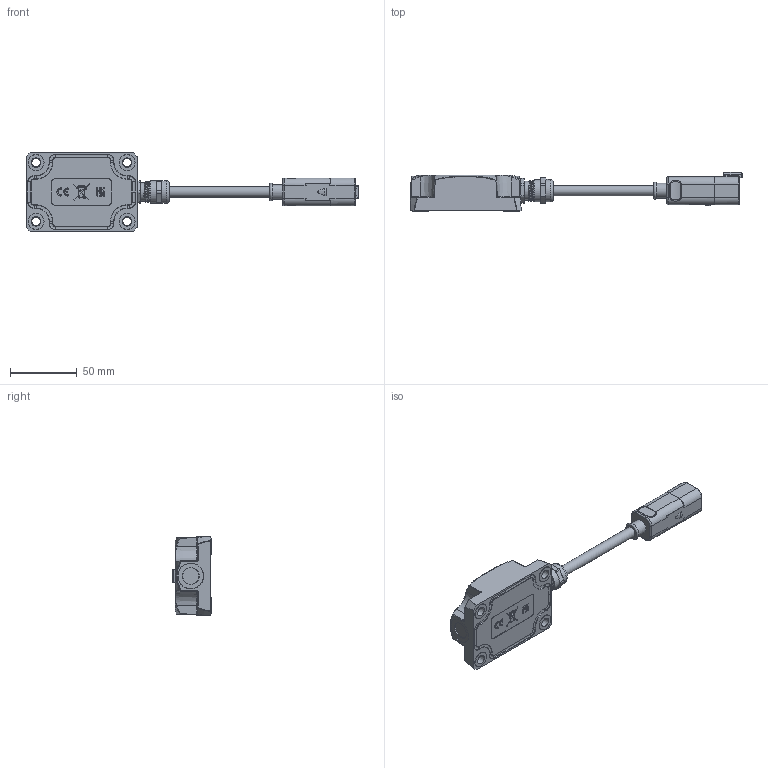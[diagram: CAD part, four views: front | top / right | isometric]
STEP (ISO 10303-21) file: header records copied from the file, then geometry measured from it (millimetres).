
FILE_DESCRIPTION (( 'STEP AP214' ), '1' );
FILE_NAME ('ACS3-K3-PO-D6.STEP', '2025-03-06T14:30:31', ( '' ), ( '' ), 'SwSTEP 2.0', 'SolidWorks 2024', '' );
FILE_SCHEMA (( 'AUTOMOTIVE_DESIGN' ));
Length unit declared in the file: millimetre
Products named in the file (1): ACS3-K3-PO-D6
Bounding box: 247.98 x 29.11 x 59 mm (x, y, z)
Volume: 129319.6 mm3; surface area: 28481.2 mm2
Topology: 1 solids, 2 shells, 913 faces, 2288 edges, 1453 vertices
Faces by surface type: plane 486, bspline 153, cylinder 138, cone 57, torus 55, sphere 24
Full cylindrical faces by diameter (mm): 1 x6, 7.8 x1, 11 x1, 14 x1, 16.75 x2, 19 x1
Entity records: 44618 total; most frequent: CARTESIAN_POINT 14007, ORIENTED_EDGE 4448, DIRECTION 3831, EDGE_CURVE 2224, VERTEX_POINT 1426, VECTOR 1379, LINE 1379, AXIS2_PLACEMENT_3D 1226
